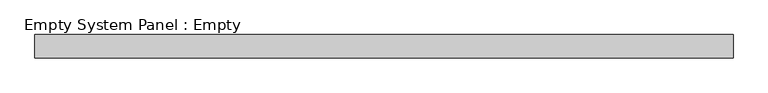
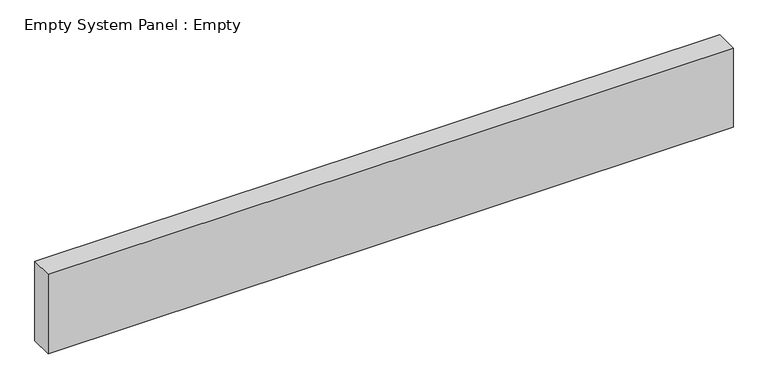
"""IFC4 building model written with IfcOpenShell, lengths in millimetres: plate geometry, Empty System Panel : Empty."""

from ifc_helpers import new_model, si_unit, origin, origin_with_axes, place, context, project, spatial, polyline, outline, extrude, source, transform, mapped, element, save


def empty_system_panel_empty_ab265454(model_context):
    return source(origin(), model_context, "Body", "SweptSolid", [
        extrude(outline(polyline([(1500.0, -50.0), (-1500.0, -50.0), (-1500.0, 50.0), (1500.0, 50.0), (1500.0, -50.0)])), origin_with_axes(), (0.0, 0.0, 1.0), 367.2182541),
    ])


if __name__ == "__main__":
    model = new_model("IFC4")
    model_context = context("Model", 3, world=origin())
    ifc_project = project(units=[si_unit("LENGTHUNIT", "METRE", prefix="MILLI")], contexts=[model_context])
    site = spatial("IfcSite", under=ifc_project)
    building = spatial("IfcBuilding", under=site)
    placement = place(None, origin())
    empty_system_panel_empty_shape = empty_system_panel_empty_ab265454(model_context)
    element("IfcPlate", 1, ObjectType="Empty System Panel : Empty", at=placement, inside=building, context=model_context, shape_type="MappedRepresentation", body=[
        mapped(empty_system_panel_empty_shape, transform((0.0, 0.0, 0.0), x_axis=(1.0, 0.0, 0.0), y_axis=(0.0, 1.0, 0.0), z_axis=(0.0, 0.0, 1.0))),
    ])
    save(model, "model.ifc")
